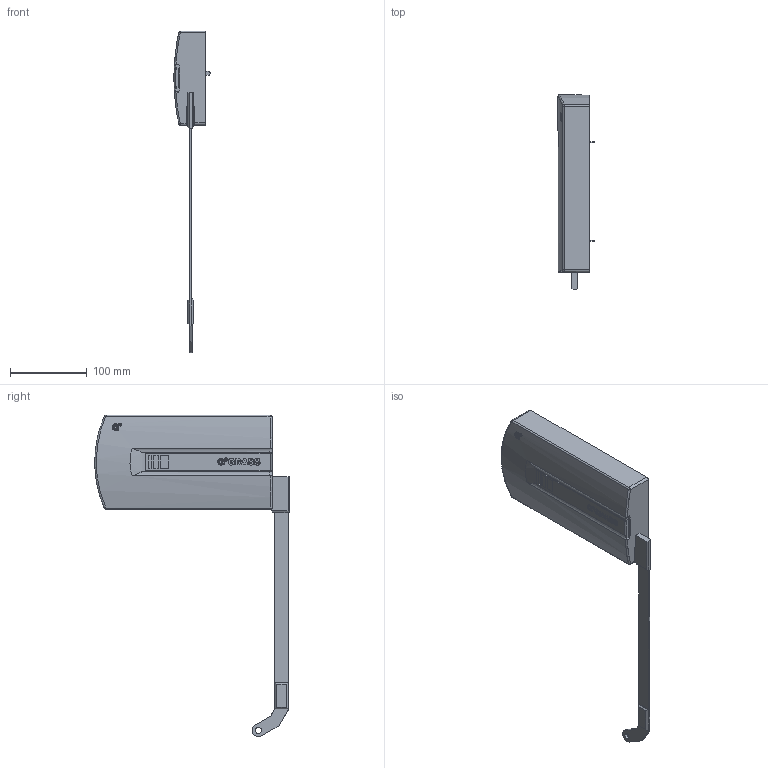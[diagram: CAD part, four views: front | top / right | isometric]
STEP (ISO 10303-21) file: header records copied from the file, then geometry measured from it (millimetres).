
FILE_DESCRIPTION (( 'STEP AP203' ), '1' );
FILE_NAME ('Kinvaro_F-20_Typ5_rechts_D2876023125~a.step', '2012-05-04T06:26:02', ( 'admin' ), ( 'Hewlett-Packard Company' ), 'SwSTEP 2.0', 'SolidWorks 2011', '' );
FILE_SCHEMA (( 'CONFIG_CONTROL_DESIGN' ));
Length unit declared in the file: millimetre
Products named in the file (1): Kinvaro_F-20_Typ5_rechts_D2876023125~a
Bounding box: 46.99 x 253.01 x 418.5 mm (x, y, z)
Volume: 1092367.3 mm3; surface area: 98373.7 mm2
Topology: 1 solids, 1 shells, 417 faces, 1151 edges, 755 vertices
Faces by surface type: cylinder 229, plane 172, torus 8, bspline 4, sphere 4
Entity records: 14118 total; most frequent: CARTESIAN_POINT 3462, ORIENTED_EDGE 2296, DIRECTION 2163, EDGE_CURVE 1148, AXIS2_PLACEMENT_3D 773, VERTEX_POINT 755, VECTOR 617, LINE 617
